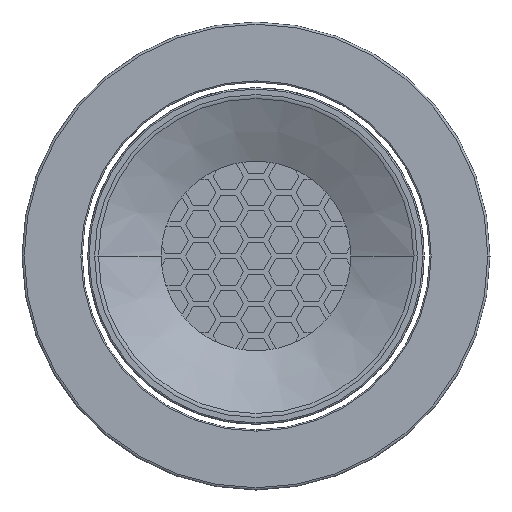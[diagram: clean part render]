
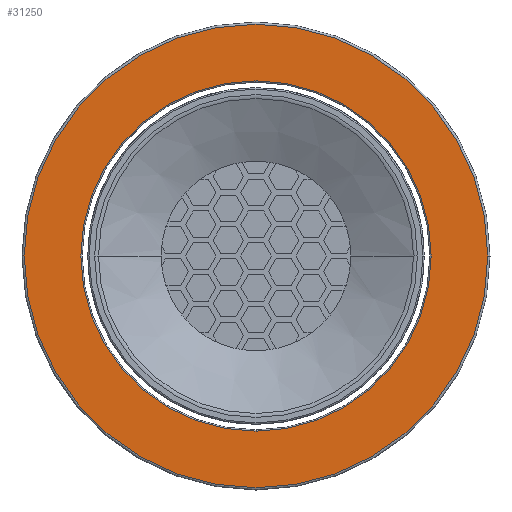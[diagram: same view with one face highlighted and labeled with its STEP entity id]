
A CAD part, front view. The second image highlights one B-rep face of the part: STEP entity #31250.
In plain terms, the highlighted planar face has unit normal (0, -1, 0).
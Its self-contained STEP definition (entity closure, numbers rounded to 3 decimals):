
#28877=CARTESIAN_POINT('',(0.,0.,0.));
#28878=DIRECTION('',(0.,-1.,0.));
#28879=DIRECTION('',(-1.,0.,0.));
#28880=AXIS2_PLACEMENT_3D('',#28877,#28878,#28879);
#28885=CARTESIAN_POINT('',(0.,0.,0.));
#28886=DIRECTION('',(0.,-1.,0.));
#28887=DIRECTION('',(1.,0.,0.));
#28888=AXIS2_PLACEMENT_3D('',#28885,#28886,#28887);
#28893=CARTESIAN_POINT('',(0.,0.,0.));
#28894=DIRECTION('',(0.,1.,0.));
#28895=DIRECTION('',(0.,0.,1.));
#28896=AXIS2_PLACEMENT_3D('',#28893,#28894,#28895);
#28901=CARTESIAN_POINT('',(0.,0.,0.));
#28902=DIRECTION('',(0.,1.,0.));
#28903=DIRECTION('',(0.,0.,-1.));
#28904=AXIS2_PLACEMENT_3D('',#28901,#28902,#28903);
#31049=CARTESIAN_POINT('',(-52.,0.,0.));
#31050=CARTESIAN_POINT('',(52.,0.,0.));
#31051=VERTEX_POINT('',#31049);
#31052=VERTEX_POINT('',#31050);
#31065=CARTESIAN_POINT('',(0.,0.,39.3));
#31066=CARTESIAN_POINT('',(0.,0.,-39.3));
#31067=VERTEX_POINT('',#31065);
#31068=VERTEX_POINT('',#31066);
#31233=CARTESIAN_POINT('',(0.,0.,0.));
#31234=DIRECTION('',(0.,1.,0.));
#31235=DIRECTION('',(1.,0.,0.));
#31236=AXIS2_PLACEMENT_3D('',#31233,#31234,#31235);
#31237=PLANE('',#31236);
#31239=ORIENTED_EDGE('',*,*,#31238,.F.);
#31241=ORIENTED_EDGE('',*,*,#31240,.F.);
#31242=EDGE_LOOP('',(#31239,#31241));
#31243=FACE_OUTER_BOUND('',#31242,.F.);
#31245=ORIENTED_EDGE('',*,*,#31244,.F.);
#31247=ORIENTED_EDGE('',*,*,#31246,.F.);
#31248=EDGE_LOOP('',(#31245,#31247));
#31249=FACE_BOUND('',#31248,.F.);
#31250=ADVANCED_FACE('',(#31243,#31249),#31237,.F.);
#28881=CIRCLE('',#28880,52.);
#28889=CIRCLE('',#28888,52.);
#28897=CIRCLE('',#28896,39.3);
#28905=CIRCLE('',#28904,39.3);
#31238=EDGE_CURVE('',#31051,#31052,#28881,.T.);
#31240=EDGE_CURVE('',#31052,#31051,#28889,.T.);
#31244=EDGE_CURVE('',#31067,#31068,#28897,.T.);
#31246=EDGE_CURVE('',#31068,#31067,#28905,.T.);
